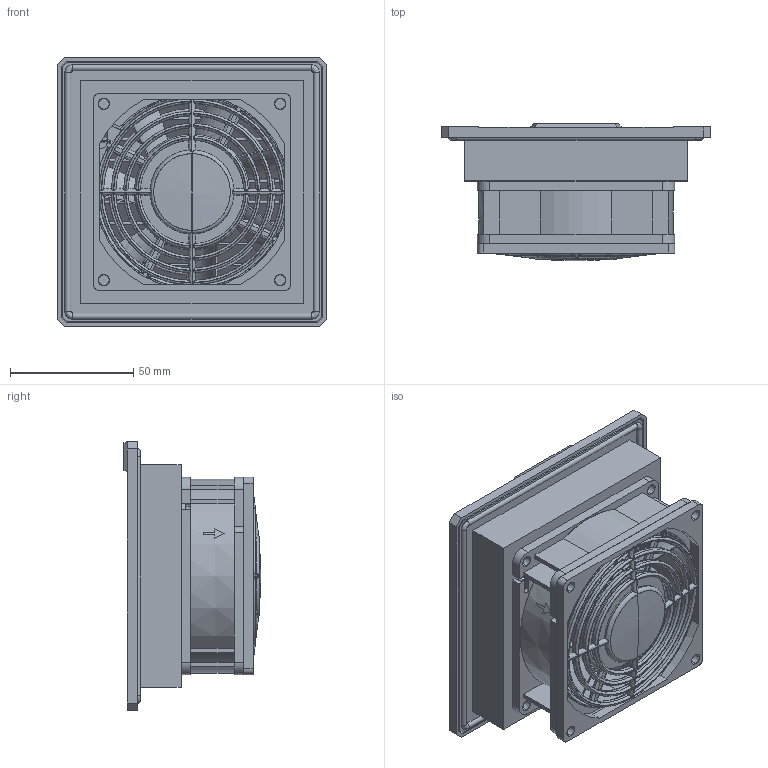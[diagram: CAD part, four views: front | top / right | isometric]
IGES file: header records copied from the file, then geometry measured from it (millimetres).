
Start section: SolidWorks IGES file using analytic representation for surfaces
Global section: file name: L:\3D Volumenmodelle\PF 11000_DC\PF 11000_DC.IGS; native system: SolidWorks 2007; preprocessor: SolidWorks 2007; author: SEichler; date: 071017.113608; units: millimetre
Bounding box: 109 x 55.74 x 109 mm (x, y, z)
Surface area: 118136.2 mm2 (no closed solid volume)
Topology: 0 solids, 0 shells, 1537 faces, 19888 edges, 19880 vertices
Faces by surface type: bspline 1078, revolution 459
